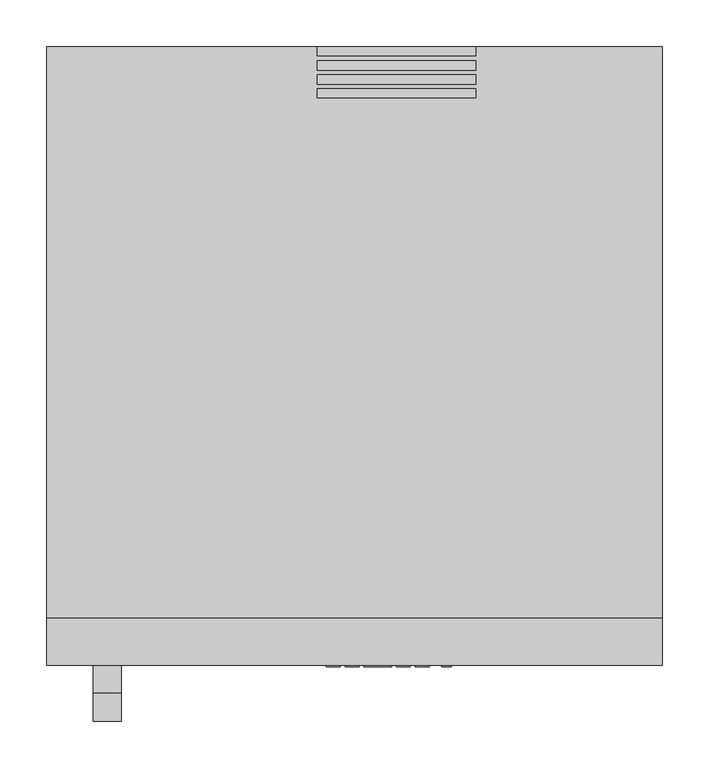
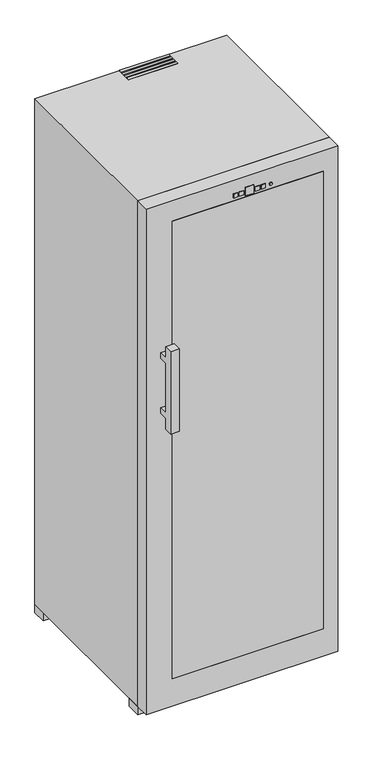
"""IFC4 building model written with IfcOpenShell, lengths in millimetres: proxy geometry, Wkb 4612_049 : WKb 4612."""

from ifc_helpers import new_model, si_unit, point, frame, frame_2d, origin, place, context, project, spatial, polyline, circle_curve, trimmed, segment, composite_curve, outline, extrude, faceted_brep, source, transform, mapped, element, save


def specialty_equipment_0063b3d1(model_context):
    return source(origin(), model_context, "Body", "SolidModel", [
        extrude(outline(polyline([(-390.0, -79.8345306), (-390.0, -100.1374483), (-390.0, -642.8345306), (-910.0, -642.8345306), (-910.0, -79.8345306), (-390.0, -79.8345306)]), holes=[polyline([(-819.113008, -100.1374483), (-879.1049624, -100.1374483), (-879.1049624, -621.5208352), (-844.113008, -621.5208352), (-819.113008, -621.5208352), (-819.113008, -100.1374483)]), polyline([(-803.4244332, -621.5208352), (-739.113008, -621.5208352), (-739.113008, -100.1374483), (-803.4244332, -100.1374483), (-803.4244332, -621.5208352)]), polyline([(-723.4244332, -621.5208352), (-659.113008, -621.5208352), (-659.113008, -100.1374483), (-723.4244332, -100.1374483), (-723.4244332, -621.5208352)]), polyline([(-643.4244332, -621.5208352), (-574.113008, -621.5208352), (-574.113008, -100.1374483), (-643.4244332, -100.1374483), (-643.4244332, -621.5208352)]), polyline([(-418.4244332, -100.1374483), (-475.9244332, -100.1374483), (-475.9244332, -621.5208352), (-453.635188, -621.5208352), (-418.4244332, -621.5208352), (-418.4244332, -100.1374483)]), polyline([(-558.4244332, -621.5208352), (-491.613008, -621.5208352), (-491.613008, -100.1374483), (-558.4244332, -100.1374483), (-558.4244332, -621.5208352)])]), frame((0.0, 0.0, 870.1353038), z_axis=(0.0, 0.0, 1.0), x_axis=(1.0, 0.0, 0.0)), (0.0, 0.0, 1.0), 14.6283487),
        extrude(outline(polyline([(-390.0, -79.8345306), (-390.0, -100.1374483), (-390.0, -642.8345306), (-910.0, -642.8345306), (-910.0, -79.8345306), (-390.0, -79.8345306)]), holes=[polyline([(-819.113008, -100.1374483), (-879.1049624, -100.1374483), (-879.1049624, -621.5208352), (-844.113008, -621.5208352), (-819.113008, -621.5208352), (-819.113008, -100.1374483)]), polyline([(-803.4244332, -621.5208352), (-739.113008, -621.5208352), (-739.113008, -100.1374483), (-803.4244332, -100.1374483), (-803.4244332, -621.5208352)]), polyline([(-723.4244332, -621.5208352), (-659.113008, -621.5208352), (-659.113008, -100.1374483), (-723.4244332, -100.1374483), (-723.4244332, -621.5208352)]), polyline([(-643.4244332, -621.5208352), (-574.113008, -621.5208352), (-574.113008, -100.1374483), (-643.4244332, -100.1374483), (-643.4244332, -621.5208352)]), polyline([(-418.4244332, -100.1374483), (-475.9244332, -100.1374483), (-475.9244332, -621.5208352), (-453.635188, -621.5208352), (-418.4244332, -621.5208352), (-418.4244332, -100.1374483)]), polyline([(-558.4244332, -621.5208352), (-491.613008, -621.5208352), (-491.613008, -100.1374483), (-558.4244332, -100.1374483), (-558.4244332, -621.5208352)])]), frame((0.0, 0.0, 710.6993462), z_axis=(0.0, 0.0, 1.0), x_axis=(1.0, 0.0, 0.0)), (0.0, 0.0, 1.0), 21.1139055),
        extrude(outline(polyline([(-390.0, -79.8345306), (-390.0, -100.1374483), (-390.0, -642.8345306), (-910.0, -642.8345306), (-910.0, -79.8345306), (-390.0, -79.8345306)]), holes=[polyline([(-819.113008, -100.1374483), (-879.1049624, -100.1374483), (-879.1049624, -621.5208352), (-844.113008, -621.5208352), (-819.113008, -621.5208352), (-819.113008, -100.1374483)]), polyline([(-803.4244332, -621.5208352), (-739.113008, -621.5208352), (-739.113008, -100.1374483), (-803.4244332, -100.1374483), (-803.4244332, -621.5208352)]), polyline([(-723.4244332, -621.5208352), (-659.113008, -621.5208352), (-659.113008, -100.1374483), (-723.4244332, -100.1374483), (-723.4244332, -621.5208352)]), polyline([(-643.4244332, -621.5208352), (-574.113008, -621.5208352), (-574.113008, -100.1374483), (-643.4244332, -100.1374483), (-643.4244332, -621.5208352)]), polyline([(-418.4244332, -100.1374483), (-475.9244332, -100.1374483), (-475.9244332, -621.5208352), (-453.635188, -621.5208352), (-418.4244332, -621.5208352), (-418.4244332, -100.1374483)]), polyline([(-558.4244332, -621.5208352), (-491.613008, -621.5208352), (-491.613008, -100.1374483), (-558.4244332, -100.1374483), (-558.4244332, -621.5208352)])]), frame((0.0, 0.0, 540.1353038), z_axis=(0.0, 0.0, 1.0), x_axis=(1.0, 0.0, 0.0)), (0.0, 0.0, 1.0), 34.7537322),
        extrude(outline(polyline([(-390.0, -79.8345306), (-390.0, -100.1374483), (-390.0, -642.8345306), (-910.0, -642.8345306), (-910.0, -79.8345306), (-390.0, -79.8345306)]), holes=[polyline([(-819.113008, -100.1374483), (-879.1049624, -100.1374483), (-879.1049624, -621.5208352), (-844.113008, -621.5208352), (-819.113008, -621.5208352), (-819.113008, -100.1374483)]), polyline([(-803.4244332, -621.5208352), (-739.113008, -621.5208352), (-739.113008, -100.1374483), (-803.4244332, -100.1374483), (-803.4244332, -621.5208352)]), polyline([(-723.4244332, -621.5208352), (-659.113008, -621.5208352), (-659.113008, -100.1374483), (-723.4244332, -100.1374483), (-723.4244332, -621.5208352)]), polyline([(-643.4244332, -621.5208352), (-574.113008, -621.5208352), (-574.113008, -100.1374483), (-643.4244332, -100.1374483), (-643.4244332, -621.5208352)]), polyline([(-418.4244332, -100.1374483), (-475.9244332, -100.1374483), (-475.9244332, -621.5208352), (-453.635188, -621.5208352), (-418.4244332, -621.5208352), (-418.4244332, -100.1374483)]), polyline([(-558.4244332, -621.5208352), (-491.613008, -621.5208352), (-491.613008, -100.1374483), (-558.4244332, -100.1374483), (-558.4244332, -621.5208352)])]), frame((0.0, 0.0, 255.1353038), z_axis=(0.0, 0.0, 1.0), x_axis=(1.0, 0.0, 0.0)), (0.0, 0.0, 1.0), 34.7537322),
        extrude(outline(polyline([(-390.0, -79.8345306), (-390.0, -100.1374483), (-390.0, -642.8345306), (-910.0, -642.8345306), (-910.0, -79.8345306), (-390.0, -79.8345306)]), holes=[polyline([(-819.113008, -100.1374483), (-879.1049624, -100.1374483), (-879.1049624, -621.5208352), (-844.113008, -621.5208352), (-819.113008, -621.5208352), (-819.113008, -100.1374483)]), polyline([(-803.4244332, -621.5208352), (-739.113008, -621.5208352), (-739.113008, -100.1374483), (-803.4244332, -100.1374483), (-803.4244332, -621.5208352)]), polyline([(-723.4244332, -621.5208352), (-659.113008, -621.5208352), (-659.113008, -100.1374483), (-723.4244332, -100.1374483), (-723.4244332, -621.5208352)]), polyline([(-643.4244332, -621.5208352), (-574.113008, -621.5208352), (-574.113008, -100.1374483), (-643.4244332, -100.1374483), (-643.4244332, -621.5208352)]), polyline([(-418.4244332, -100.1374483), (-475.9244332, -100.1374483), (-475.9244332, -621.5208352), (-453.635188, -621.5208352), (-418.4244332, -621.5208352), (-418.4244332, -100.1374483)]), polyline([(-558.4244332, -621.5208352), (-491.613008, -621.5208352), (-491.613008, -100.1374483), (-558.4244332, -100.1374483), (-558.4244332, -621.5208352)])]), frame((0.0, 0.0, -14.8646962), z_axis=(0.0, 0.0, 1.0), x_axis=(1.0, 0.0, 0.0)), (0.0, 0.0, 1.0), 26.4267548),
        extrude(outline(polyline([(-390.0, -79.8345306), (-390.0, -100.1374483), (-390.0, -642.8345306), (-910.0, -642.8345306), (-910.0, -79.8345306), (-390.0, -79.8345306)]), holes=[polyline([(-819.113008, -100.1374483), (-879.1049624, -100.1374483), (-879.1049624, -621.5208352), (-844.113008, -621.5208352), (-819.113008, -621.5208352), (-819.113008, -100.1374483)]), polyline([(-803.4244332, -621.5208352), (-739.113008, -621.5208352), (-739.113008, -100.1374483), (-803.4244332, -100.1374483), (-803.4244332, -621.5208352)]), polyline([(-723.4244332, -621.5208352), (-659.113008, -621.5208352), (-659.113008, -100.1374483), (-723.4244332, -100.1374483), (-723.4244332, -621.5208352)]), polyline([(-643.4244332, -621.5208352), (-574.113008, -621.5208352), (-574.113008, -100.1374483), (-643.4244332, -100.1374483), (-643.4244332, -621.5208352)]), polyline([(-418.4244332, -100.1374483), (-475.9244332, -100.1374483), (-475.9244332, -621.5208352), (-453.635188, -621.5208352), (-418.4244332, -621.5208352), (-418.4244332, -100.1374483)]), polyline([(-558.4244332, -621.5208352), (-491.613008, -621.5208352), (-491.613008, -100.1374483), (-558.4244332, -100.1374483), (-558.4244332, -621.5208352)])]), frame((0.0, 0.0, -274.8646962), z_axis=(0.0, 0.0, 1.0), x_axis=(1.0, 0.0, 0.0)), (0.0, 0.0, 1.0), 28.5542219),
        extrude(outline(polyline([(-390.0, -79.8345306), (-390.0, -100.1374483), (-390.0, -642.8249483), (-910.0, -642.8249483), (-910.0, -79.8345306), (-390.0, -79.8345306)]), holes=[polyline([(-819.113008, -100.1374483), (-879.1049624, -100.1374483), (-879.1049624, -621.5208352), (-844.113008, -621.5208352), (-819.113008, -621.5208352), (-819.113008, -100.1374483)]), polyline([(-803.4244332, -621.5208352), (-739.113008, -621.5208352), (-739.113008, -100.1374483), (-803.4244332, -100.1374483), (-803.4244332, -621.5208352)]), polyline([(-723.4244332, -621.5208352), (-659.113008, -621.5208352), (-659.113008, -100.1374483), (-723.4244332, -100.1374483), (-723.4244332, -621.5208352)]), polyline([(-643.4244332, -621.5208352), (-574.113008, -621.5208352), (-574.113008, -100.1374483), (-643.4244332, -100.1374483), (-643.4244332, -621.5208352)]), polyline([(-418.4244332, -100.1374483), (-475.9244332, -100.1374483), (-475.9244332, -621.5208352), (-453.635188, -621.5208352), (-418.4244332, -621.5208352), (-418.4244332, -100.1374483)]), polyline([(-558.4244332, -621.5208352), (-491.613008, -621.5208352), (-491.613008, -100.1374483), (-558.4244332, -100.1374483), (-558.4244332, -621.5208352)])]), frame((0.0, 0.0, -524.1867483), z_axis=(0.0, 0.0, 1.0), x_axis=(1.0, 0.0, 0.0)), (0.0, 0.0, 1.0), 21.9717658),
        extrude(outline(polyline([(-540.0, -29.8345306), (-540.0, -39.8345306), (-710.0, -39.8345306), (-710.0, -29.8345306), (-540.0, -29.8345306)])), frame((0.0, 0.0, 1216.8132517), z_axis=(0.0, 0.0, 1.0), x_axis=(1.0, 0.0, 0.0)), (0.0, 0.0, 1.0), 1.0318985),
        extrude(outline(polyline([(-540.0, -45.1511593), (-540.0, -55.1511593), (-710.0, -55.1511593), (-710.0, -45.1511593), (-540.0, -45.1511593)])), frame((0.0, 0.0, 1216.8132517), z_axis=(0.0, 0.0, 1.0), x_axis=(1.0, 0.0, 0.0)), (0.0, 0.0, 1.0), 1.0318985),
        extrude(outline(polyline([(-540.0, -60.1400497), (-540.0, -70.1400497), (-710.0, -70.1400497), (-710.0, -60.1400497), (-540.0, -60.1400497)])), frame((0.0, 0.0, 1216.8132517), z_axis=(0.0, 0.0, 1.0), x_axis=(1.0, 0.0, 0.0)), (0.0, 0.0, 1.0), 1.0318985),
        extrude(outline(polyline([(-540.0, -74.8345306), (-540.0, -84.8345306), (-710.0, -84.8345306), (-710.0, -74.8345306), (-540.0, -74.8345306)])), frame((0.0, 0.0, 1216.8132517), z_axis=(0.0, 0.0, 1.0), x_axis=(1.0, 0.0, 0.0)), (0.0, 0.0, 1.0), 1.0318985),
        extrude(outline(polyline([(-630.0, -694.7817027), (-660.0, -694.7817027), (-660.0, -692.8345306), (-630.0, -692.8345306), (-630.0, -694.7817027)])), frame((0.0, 0.0, 1146.8132517), z_axis=(0.0, 0.0, 1.0), x_axis=(1.0, 0.0, 0.0)), (0.0, 0.0, 1.0), 30.0),
        extrude(outline(polyline([(-665.0, -694.7817027), (-680.0, -694.7817027), (-680.0, -692.8345306), (-665.0, -692.8345306), (-665.0, -694.7817027)])), frame((0.0, 0.0, 1152.245761), z_axis=(0.0, 0.0, 1.0), x_axis=(1.0, 0.0, 0.0)), (0.0, 0.0, 1.0), 15.0),
        extrude(outline(polyline([(-685.0, -694.7817027), (-700.0, -694.7817027), (-700.0, -692.8345306), (-685.0, -692.8345306), (-685.0, -694.7817027)])), frame((0.0, 0.0, 1152.245761), z_axis=(0.0, 0.0, 1.0), x_axis=(1.0, 0.0, 0.0)), (0.0, 0.0, 1.0), 15.0),
        extrude(outline(polyline([(-610.0, -694.7817027), (-625.0, -694.7817027), (-625.0, -692.8345306), (-610.0, -692.8345306), (-610.0, -694.7817027)])), frame((0.0, 0.0, 1152.245761), z_axis=(0.0, 0.0, 1.0), x_axis=(1.0, 0.0, 0.0)), (0.0, 0.0, 1.0), 15.0),
        extrude(outline(polyline([(-590.0, -694.7817027), (-605.0, -694.7817027), (-605.0, -692.8345306), (-590.0, -692.8345306), (-590.0, -694.7817027)])), frame((0.0, 0.0, 1152.245761), z_axis=(0.0, 0.0, 1.0), x_axis=(1.0, 0.0, 0.0)), (0.0, 0.0, 1.0), 15.0),
        extrude(outline(composite_curve([segment(trimmed(circle_curve(frame_2d((1159.745761, -571.25)), 5.0), [point((1159.745761, -576.25))], [point((1159.745761, -566.25))], False, "CARTESIAN"), True, "CONTINUOUS"), segment(trimmed(circle_curve(frame_2d((1159.745761, -571.25)), 5.0), [point((1159.745761, -566.25))], [point((1159.745761, -576.25))], False, "CARTESIAN"), True, "CONTINUOUS")], self_intersect=False)), frame((0.0, -694.7817027, 0.0), z_axis=(0.0, 1.0, 0.0), x_axis=(0.0, 0.0, 1.0)), (0.0, 0.0, 1.0), 1.947172),
        extrude(outline(polyline([(-390.0, -692.8345306), (-910.0, -692.8345306), (-910.0, -642.8345306), (-390.0, -642.8345306), (-390.0, -692.8345306)])), frame((0.0, 0.0, -524.1867483), z_axis=(0.0, 0.0, 1.0), x_axis=(1.0, 0.0, 0.0)), (0.0, 0.0, 1.0), 1666.0),
        extrude(outline(polyline([(1216.8132517, -340.0), (1216.8132517, -1000.0), (-624.1867483, -1000.0), (-624.1867483, -340.0), (1216.8132517, -340.0)]), holes=[polyline([(1141.8132517, -910.0), (1141.8132517, -390.0), (-524.1867483, -390.0), (-524.1867483, -910.0), (1141.8132517, -910.0)])]), frame((0.0, -692.8345306, 0.0), z_axis=(0.0, 1.0, 0.0), x_axis=(0.0, 0.0, 1.0)), (0.0, 0.0, 1.0), 50.0),
        faceted_brep([(-340.0, -642.8345306, 1216.8132517), (-1000.0, -642.8345306, 1216.8132517), (-1000.0, -642.8345306, -624.1867483), (-340.0, -642.8345306, -624.1867483), (-910.0, -642.8345306, 1141.8132517), (-390.0, -642.8345306, 1141.8132517), (-390.0, -642.8345306, -524.1867483), (-910.0, -642.8345306, -524.1867483), (-340.0, -29.8345306, 1216.8132517), (-340.0, -29.8345306, -624.1867483), (-1000.0, -29.8345306, -624.1867483), (-1000.0, -29.8345306, 1216.8132517), (-390.0, -79.8345306, 1141.8132517), (-910.0, -79.8345306, 1141.8132517), (-910.0, -79.8345306, -524.1867483), (-390.0, -79.8345306, -524.1867483)], [[[0, 1, 2, 3], [4, 5, 6, 7]], [[8, 9, 10, 11]], [[1, 0, 8, 11]], [[2, 1, 11, 10]], [[3, 2, 10, 9]], [[0, 3, 9, 8]], [[12, 13, 14, 15]], [[13, 12, 5, 4]], [[14, 13, 4, 7]], [[15, 14, 7, 6]], [[12, 15, 6, 5]]]),
        extrude(outline(polyline([(-340.0, -592.8345306), (-340.0, -642.8345306), (-390.0, -642.8345306), (-390.0, -592.8345306), (-340.0, -592.8345306)])), frame((0.0, 0.0, -654.1867483), z_axis=(0.0, 0.0, 1.0), x_axis=(1.0, 0.0, 0.0)), (0.0, 0.0, 1.0), 30.0),
        extrude(outline(polyline([(-340.0, -29.8345306), (-340.0, -79.8345306), (-390.0, -79.8345306), (-390.0, -29.8345306), (-340.0, -29.8345306)])), frame((0.0, 0.0, -654.1867483), z_axis=(0.0, 0.0, 1.0), x_axis=(1.0, 0.0, 0.0)), (0.0, 0.0, 1.0), 30.0),
        extrude(outline(polyline([(-950.0, -29.8345306), (-950.0, -79.8345306), (-1000.0, -79.8345306), (-1000.0, -29.8345306), (-950.0, -29.8345306)])), frame((0.0, 0.0, -654.1867483), z_axis=(0.0, 0.0, 1.0), x_axis=(1.0, 0.0, 0.0)), (0.0, 0.0, 1.0), 30.0),
        extrude(outline(polyline([(-950.0, -592.8345306), (-950.0, -642.8345306), (-1000.0, -642.8345306), (-1000.0, -592.8345306), (-950.0, -592.8345306)])), frame((0.0, 0.0, -654.1867483), z_axis=(0.0, 0.0, 1.0), x_axis=(1.0, 0.0, 0.0)), (0.0, 0.0, 1.0), 30.0),
        extrude(outline(polyline([(-722.8345306, 676.8132517), (-692.8345306, 676.8132517), (-692.8345306, 656.8132517), (-722.8345306, 656.8132517), (-722.8345306, 476.8132517), (-692.8345306, 476.8132517), (-692.8345306, 456.8132517), (-722.8345306, 456.8132517), (-722.8345306, 416.8132517), (-752.8345306, 416.8132517), (-752.8345306, 716.8132517), (-722.8345306, 716.8132517), (-722.8345306, 676.8132517)])), frame((-950.0, 0.0, 0.0), z_axis=(1.0, 0.0, 0.0), x_axis=(0.0, 1.0, 0.0)), (0.0, 0.0, 1.0), 30.0),
    ])


if __name__ == "__main__":
    model = new_model("IFC4")
    model_context = context("Model", 3, world=origin())
    ifc_project = project(units=[si_unit("LENGTHUNIT", "METRE", prefix="MILLI")], contexts=[model_context])
    site = spatial("IfcSite", under=ifc_project)
    building = spatial("IfcBuilding", under=site)
    placement = place(None, origin())
    specialty_equipment_shape = specialty_equipment_0063b3d1(model_context)
    element("IfcBuildingElementProxy", 1, Name="Wkb 4612_049 : WKb 4612", ObjectType="Wkb 4612_049 : WKb 4612", at=placement, inside=building, context=model_context, shape_type="MappedRepresentation", body=[
        mapped(specialty_equipment_shape, transform((0.0, 0.0, 0.0), x_axis=(1.0, 0.0, 0.0), y_axis=(0.0, 1.0, 0.0), z_axis=(0.0, 0.0, 1.0))),
    ])
    save(model, "model.ifc")
